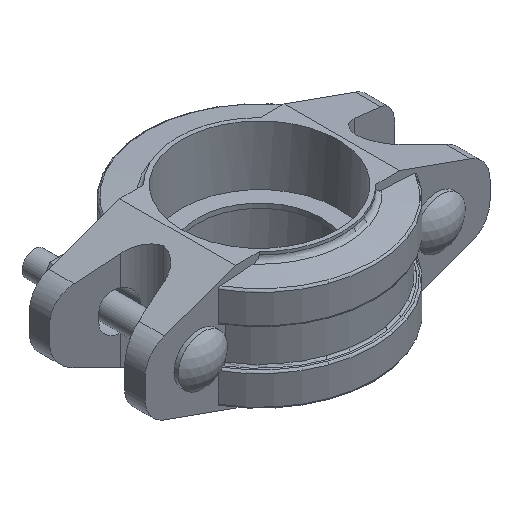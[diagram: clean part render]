
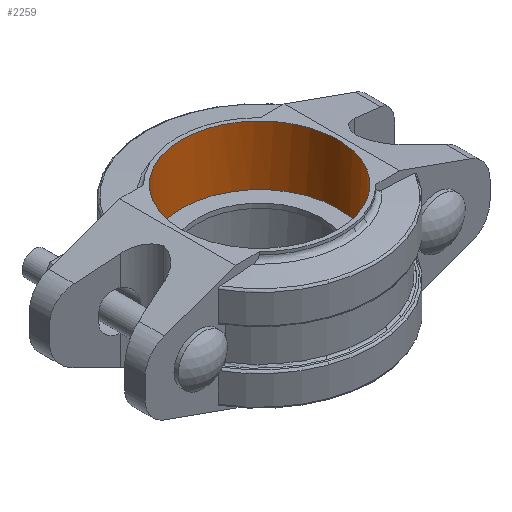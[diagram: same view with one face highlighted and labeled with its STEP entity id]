
A CAD part, isometric view. The second image highlights one B-rep face of the part: STEP entity #2259.
In plain terms, the highlighted cylindrical face has radius 30.163 mm (diameter 60.325 mm), a full revolution.
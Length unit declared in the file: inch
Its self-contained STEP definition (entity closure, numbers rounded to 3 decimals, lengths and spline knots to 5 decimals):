
#208=FACE_OUTER_BOUND('',#323,.T.);
#323=EDGE_LOOP('',(#1446,#1447,#1448,#1449,#1450,#1451));
#446=LINE('',#3301,#617);
#617=VECTOR('',#2652,1.1875);
#791=CIRCLE('',#2396,1.1875);
#792=CIRCLE('',#2397,1.1875);
#793=CIRCLE('',#2399,1.1875);
#794=CIRCLE('',#2400,1.1875);
#881=VERTEX_POINT('',#3295);
#882=VERTEX_POINT('',#3296);
#883=VERTEX_POINT('',#3300);
#884=VERTEX_POINT('',#3302);
#1108=EDGE_CURVE('',#881,#882,#791,.T.);
#1109=EDGE_CURVE('',#882,#881,#792,.T.);
#1110=EDGE_CURVE('',#882,#883,#446,.T.);
#1111=EDGE_CURVE('',#884,#883,#793,.T.);
#1112=EDGE_CURVE('',#883,#884,#794,.T.);
#1446=ORIENTED_EDGE('',*,*,#1108,.T.);
#1447=ORIENTED_EDGE('',*,*,#1110,.T.);
#1448=ORIENTED_EDGE('',*,*,#1111,.F.);
#1449=ORIENTED_EDGE('',*,*,#1112,.F.);
#1450=ORIENTED_EDGE('',*,*,#1110,.F.);
#1451=ORIENTED_EDGE('',*,*,#1109,.T.);
#2103=CYLINDRICAL_SURFACE('',#2398,1.1875);
#2259=ADVANCED_FACE('',(#208),#2103,.F.);
#2396=AXIS2_PLACEMENT_3D('',#3297,#2646,#2647);
#2397=AXIS2_PLACEMENT_3D('',#3298,#2648,#2649);
#2398=AXIS2_PLACEMENT_3D('',#3299,#2650,#2651);
#2399=AXIS2_PLACEMENT_3D('',#3303,#2653,#2654);
#2400=AXIS2_PLACEMENT_3D('',#3304,#2655,#2656);
#2646=DIRECTION('center_axis',(0.,0.,-1.));
#2647=DIRECTION('ref_axis',(0.,-1.,0.));
#2648=DIRECTION('center_axis',(0.,0.,-1.));
#2649=DIRECTION('ref_axis',(0.,-1.,0.));
#2650=DIRECTION('center_axis',(0.,0.,-1.));
#2651=DIRECTION('ref_axis',(0.,-1.,0.));
#2652=DIRECTION('',(0.,0.,1.));
#2653=DIRECTION('center_axis',(0.,0.,-1.));
#2654=DIRECTION('ref_axis',(-1.,0.,0.));
#2655=DIRECTION('center_axis',(0.,0.,-1.));
#2656=DIRECTION('ref_axis',(-1.,0.,0.));
#3295=CARTESIAN_POINT('',(-1.1875,0.,0.035));
#3296=CARTESIAN_POINT('',(0.,1.1875,0.035));
#3297=CARTESIAN_POINT('Origin',(0.,0.,0.035));
#3298=CARTESIAN_POINT('Origin',(0.,0.,0.035));
#3299=CARTESIAN_POINT('Origin',(0.,0.,0.));
#3300=CARTESIAN_POINT('',(0.,1.1875,0.94));
#3301=CARTESIAN_POINT('',(0.,1.1875,0.));
#3302=CARTESIAN_POINT('',(0.79734,0.88,0.94));
#3303=CARTESIAN_POINT('Origin',(0.,0.,0.94));
#3304=CARTESIAN_POINT('Origin',(0.,0.,0.94));
